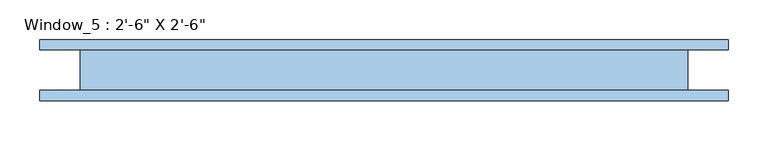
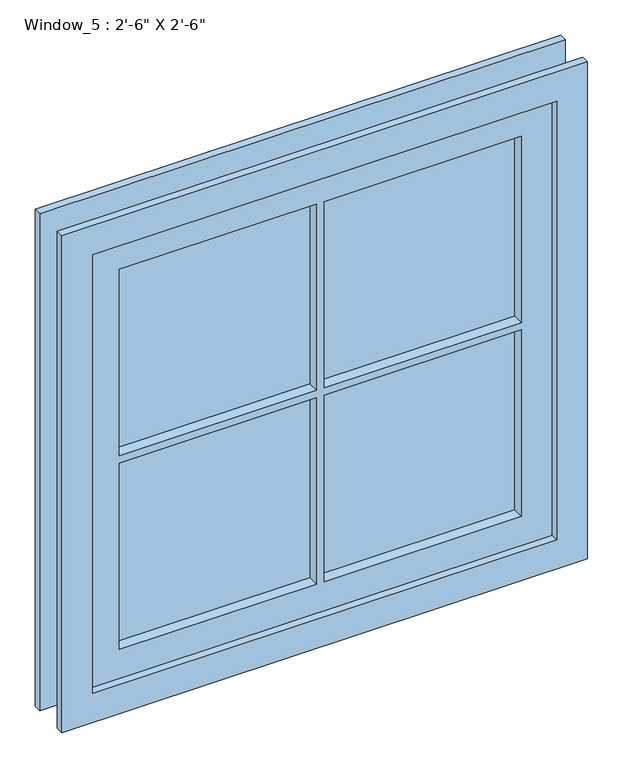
"""IFC4 building model written with IfcOpenShell, lengths in millimetres: window geometry."""

from ifc_helpers import new_model, si_unit, frame, origin, place, context, project, spatial, polyline, outline, extrude, source, transform, mapped, element, save


def window_590863fd(model_context):
    return source(origin(), model_context, "Body", "SweptSolid", [
        extrude(outline(polyline([(342.9, -50.8), (342.9, -63.5), (19.05, -63.5), (19.05, -50.8), (342.9, -50.8)])), frame((0.0, 0.0, 863.6), z_axis=(0.0, 0.0, 1.0), x_axis=(1.0, 0.0, 0.0)), (0.0, 0.0, 1.0), 323.85),
        extrude(outline(polyline([(6.35, -50.8), (6.35, -63.5), (-317.5, -63.5), (-317.5, -50.8), (6.35, -50.8)])), frame((0.0, 0.0, 863.6), z_axis=(0.0, 0.0, 1.0), x_axis=(1.0, 0.0, 0.0)), (0.0, 0.0, 1.0), 323.85),
        extrude(outline(polyline([(6.35, -50.8), (6.35, -63.5), (-317.5, -63.5), (-317.5, -50.8), (6.35, -50.8)])), frame((0.0, 0.0, 1200.15), z_axis=(0.0, 0.0, 1.0), x_axis=(1.0, 0.0, 0.0)), (0.0, 0.0, 1.0), 323.85),
        extrude(outline(polyline([(342.9, -50.8), (342.9, -63.5), (19.05, -63.5), (19.05, -50.8), (342.9, -50.8)])), frame((0.0, 0.0, 1200.15), z_axis=(0.0, 0.0, 1.0), x_axis=(1.0, 0.0, 0.0)), (0.0, 0.0, 1.0), 323.85),
        extrude(outline(polyline([(1574.8, -368.3), (812.8, -368.3), (812.8, 393.7), (1574.8, 393.7), (1574.8, -368.3)]), holes=[polyline([(1200.15, -317.5), (1524.0, -317.5), (1524.0, 6.35), (1200.15, 6.35), (1200.15, -317.5)]), polyline([(863.6, 19.05), (1187.45, 19.05), (1187.45, 342.9), (863.6, 342.9), (863.6, 19.05)]), polyline([(1187.45, 6.35), (863.6, 6.35), (863.6, -317.5), (1187.45, -317.5), (1187.45, 6.35)]), polyline([(1524.0, 19.05), (1524.0, 342.9), (1200.15, 342.9), (1200.15, 19.05), (1524.0, 19.05)])]), frame((0.0, -82.55, 0.0), z_axis=(0.0, 1.0, 0.0), x_axis=(0.0, 0.0, 1.0)), (0.0, 0.0, 1.0), 50.8),
        extrude(outline(polyline([(1625.6, -419.1), (762.0, -419.1), (762.0, 444.5), (1625.6, 444.5), (1625.6, -419.1)]), holes=[polyline([(1574.8, -368.3), (1574.8, 393.7), (812.8, 393.7), (812.8, -368.3), (1574.8, -368.3)])]), frame((0.0, -95.25, 0.0), z_axis=(0.0, 1.0, 0.0), x_axis=(0.0, 0.0, 1.0)), (0.0, 0.0, 1.0), 12.7),
        extrude(outline(polyline([(1625.6, -419.1), (762.0, -419.1), (762.0, 444.5), (1625.6, 444.5), (1625.6, -419.1)]), holes=[polyline([(812.8, 393.7), (812.8, -368.3), (1574.8, -368.3), (1574.8, 393.7), (812.8, 393.7)])]), frame((0.0, -31.75, 0.0), z_axis=(0.0, 1.0, 0.0), x_axis=(0.0, 0.0, 1.0)), (0.0, 0.0, 1.0), 12.7),
    ])


if __name__ == "__main__":
    model = new_model("IFC4")
    model_context = context("Model", 3, world=origin())
    ifc_project = project(units=[si_unit("LENGTHUNIT", "METRE", prefix="MILLI")], contexts=[model_context])
    site = spatial("IfcSite", under=ifc_project)
    building = spatial("IfcBuilding", under=site)
    placement = place(None, origin())
    window_shape = window_590863fd(model_context)
    element("IfcWindow", 1, ObjectType="Window_5 : 2'-6\" X 2'-6\"", at=placement, inside=building, context=model_context, shape_type="MappedRepresentation", body=[
        mapped(window_shape, transform((0.0, 0.0, 0.0), x_axis=(1.0, 0.0, 0.0), y_axis=(0.0, 1.0, 0.0), z_axis=(0.0, 0.0, 1.0))),
    ])
    save(model, "model.ifc")
